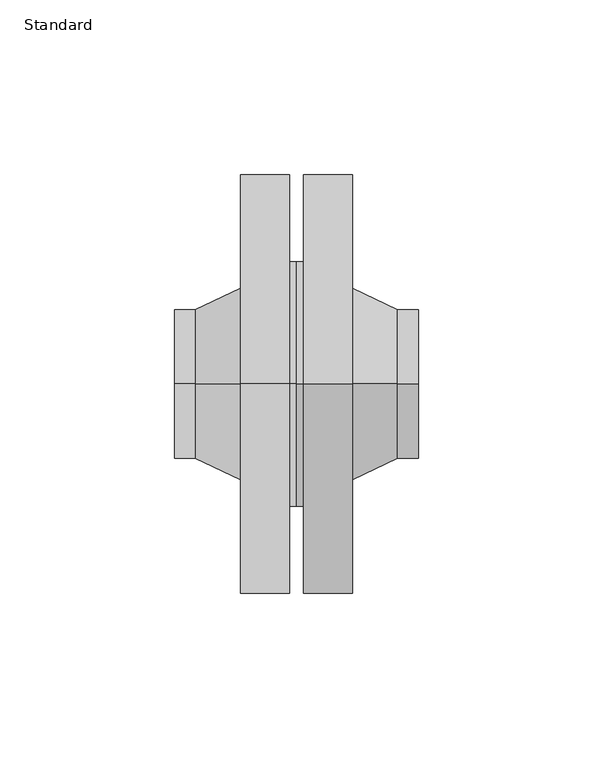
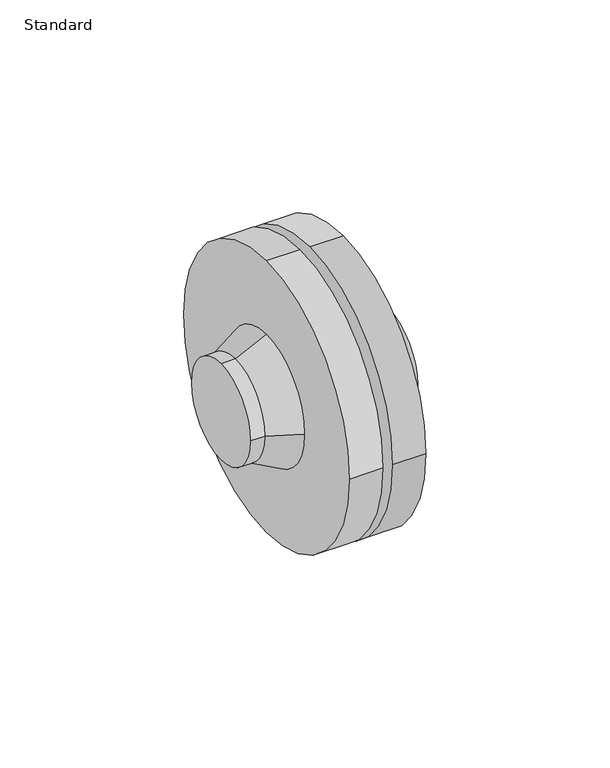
"""IFC4 building model written with IfcOpenShell, lengths in millimetres: pipe fitting geometry, Brides Double PN6 Collerette : Standard."""

import ifcopenshell
import ifcopenshell.guid

model = None  # the IFC model being written
_history = None  # IfcOwnerHistory: only IFC2X3 demands one
_inside = {}  # id of a spatial element -> (the spatial element, [elements in it])
_under = {}  # id of a project, library or spatial element -> (it, [spatial elements below it])
_declared = {}  # id of a project -> (the project, [libraries it declares])
_typed = {}  # id of a type object -> (the type object, [elements of that type])
_made_of = {}  # id of a material, layer set ... -> (it, [elements and type objects made of it])


def new_model(schema):
    """Start an empty IFC model of exactly this schema.

    Asked for "IFC4X3", IfcOpenShell would pick the latest addendum, in which some entities
    have other attributes; the version numbers below select the first issue.
    IFC2X3 requires an IfcOwnerHistory on every rooted entity: one is made here for all.
    """
    global model, _history
    if schema == "IFC4X3":
        model = ifcopenshell.file(schema_version=(4, 3, 0, 0))
    else:
        model = ifcopenshell.file(schema=schema)
    _inside.clear()
    _under.clear()
    _declared.clear()
    _typed.clear()
    _made_of.clear()
    _history = None
    if model.schema == "IFC2X3":
        org = make("IfcOrganization", Name="unknown")
        user = make(
            "IfcPersonAndOrganization",
            ThePerson=make("IfcPerson", FamilyName="unknown"),
            TheOrganization=org,
        )
        app = make(
            "IfcApplication",
            ApplicationDeveloper=org,
            Version="unknown",
            ApplicationFullName="unknown",
            ApplicationIdentifier="unknown",
        )
        _history = make(
            "IfcOwnerHistory",
            OwningUser=user,
            OwningApplication=app,
            ChangeAction="ADDED",
            CreationDate=0,
        )
    return model


def make(cls, **values):
    """One entity of the class cls with the attributes given. An attribute that is None is left unset."""
    return model.create_entity(
        cls, **{name: value for name, value in values.items() if value is not None}
    )


def rooted(cls, **values):
    """An entity with a GlobalId (a new one), such as an element, a storey or a relation."""
    return make(cls, GlobalId=ifcopenshell.guid.new(), OwnerHistory=_history, **values)


def si_unit(unit_type, name, prefix=None):
    """IfcSIUnit, for example si_unit("LENGTHUNIT", "METRE", prefix="MILLI")."""
    return make("IfcSIUnit", UnitType=unit_type, Prefix=prefix, Name=name)


def assignment(units):
    """IfcUnitAssignment: the units of a project."""
    return None if units is None else make("IfcUnitAssignment", Units=units)


def point(xyz):
    """IfcCartesianPoint."""
    return None if xyz is None else make("IfcCartesianPoint", Coordinates=xyz)


def direction(xyz):
    """IfcDirection."""
    return None if xyz is None else make("IfcDirection", DirectionRatios=xyz)


def frame(location, z_axis=None, x_axis=None):
    """IfcAxis2Placement3D, a coordinate frame: its origin and axes. An axis left out is left unset."""
    return make(
        "IfcAxis2Placement3D",
        Location=point(location),
        Axis=direction(z_axis),
        RefDirection=direction(x_axis),
    )


def frame_2d(location, x_axis=None):
    """IfcAxis2Placement2D, a coordinate frame in the plane: its origin and x axis."""
    return make(
        "IfcAxis2Placement2D", Location=point(location), RefDirection=direction(x_axis)
    )


def origin():
    """The frame at (0, 0, 0) with its axes left unset."""
    return frame((0.0, 0.0, 0.0))


def origin_2d():
    """The frame at (0, 0) in the plane with its x axis left unset."""
    return frame_2d((0.0, 0.0))


def place(relative_to, where):
    """IfcLocalPlacement: puts the frame where relative to a parent placement (None: the world)."""
    return make(
        "IfcLocalPlacement", PlacementRelTo=relative_to, RelativePlacement=where
    )


def context(
    kind, dimensions, precision=None, world=None, true_north=None, identifier=None
):
    """IfcGeometricRepresentationContext, for example the 3D "Model" context."""
    return make(
        "IfcGeometricRepresentationContext",
        ContextIdentifier=identifier,
        ContextType=kind,
        CoordinateSpaceDimension=dimensions,
        Precision=precision,
        WorldCoordinateSystem=world,
        TrueNorth=true_north,
    )


def project(units=None, contexts=None):
    """IfcProject with its units and contexts."""
    return rooted(
        "IfcProject",
        Name="project",
        RepresentationContexts=contexts,
        UnitsInContext=assignment(units),
    )


def spatial(cls, under=None, at=None, **own):
    """A site, building, storey or space (cls), placed at a placement, below another one or the project."""
    s = rooted(cls, ObjectPlacement=at, **own)
    if under is not None:
        _under.setdefault(under.id(), (under, []))[1].append(s)
    return s


def polyline(points):
    """IfcPolyline through the points."""
    return make("IfcPolyline", Points=[point(p) for p in points])


def circle_curve(where, radius):
    """IfcCircle in the frame where."""
    return make("IfcCircle", Position=where, Radius=radius)


def trimmed(basis, trim1, trim2, sense, master):
    """IfcTrimmedCurve: the piece of a basis curve between two trims."""
    return make(
        "IfcTrimmedCurve",
        BasisCurve=basis,
        Trim1=trim1,
        Trim2=trim2,
        SenseAgreement=sense,
        MasterRepresentation=master,
    )


def segment(curve, same_sense, transition):
    """IfcCompositeCurveSegment."""
    return make(
        "IfcCompositeCurveSegment",
        Transition=transition,
        SameSense=same_sense,
        ParentCurve=curve,
    )


def composite_curve(segments, self_intersect=None):
    """IfcCompositeCurve: segments joined end to end."""
    return make("IfcCompositeCurve", Segments=segments, SelfIntersect=self_intersect)


def outline(outer, holes=None, kind="AREA"):
    """IfcArbitraryClosedProfileDef: a profile drawn as a closed curve; with holes, ...WithVoids."""
    if holes is None:
        return make("IfcArbitraryClosedProfileDef", ProfileType=kind, OuterCurve=outer)
    return make(
        "IfcArbitraryProfileDefWithVoids",
        ProfileType=kind,
        OuterCurve=outer,
        InnerCurves=holes,
    )


def extrude(swept, where, along, depth):
    """IfcExtrudedAreaSolid: the profile swept, set in the frame where, extruded along a direction by depth."""
    return make(
        "IfcExtrudedAreaSolid",
        SweptArea=swept,
        Position=where,
        ExtrudedDirection=direction(along),
        Depth=depth,
    )


def shape(context_of_items, identifier, shape_type, items):
    """IfcShapeRepresentation: the items that make up one representation, for example the "Body"."""
    return make(
        "IfcShapeRepresentation",
        ContextOfItems=context_of_items,
        RepresentationIdentifier=identifier,
        RepresentationType=shape_type,
        Items=items,
    )


def source(mapping_origin, context_of_items, identifier, shape_type, items):
    """IfcRepresentationMap: a shape defined once, which mapped items show again and again."""
    return make(
        "IfcRepresentationMap",
        MappingOrigin=mapping_origin,
        MappedRepresentation=shape(context_of_items, identifier, shape_type, items),
    )


def transform(
    local_origin,
    x_axis=None,
    y_axis=None,
    z_axis=None,
    scale=None,
    scale2=None,
    scale3=None,
    uniform=True,
):
    """IfcCartesianTransformationOperator3D, or its non-uniform kind. x_axis, y_axis, z_axis: its Axis1, 2, 3."""
    if uniform:
        return make(
            "IfcCartesianTransformationOperator3D",
            Axis1=direction(x_axis),
            Axis2=direction(y_axis),
            LocalOrigin=point(local_origin),
            Scale=scale,
            Axis3=direction(z_axis),
        )
    return make(
        "IfcCartesianTransformationOperator3DnonUniform",
        Axis1=direction(x_axis),
        Axis2=direction(y_axis),
        LocalOrigin=point(local_origin),
        Scale=scale,
        Axis3=direction(z_axis),
        Scale2=scale2,
        Scale3=scale3,
    )


def mapped(mapping_source, mapping_target):
    """IfcMappedItem: shows the shape of a source again, moved by a transform."""
    return make(
        "IfcMappedItem", MappingSource=mapping_source, MappingTarget=mapping_target
    )


def made_of(thing, what):
    """Note that an element or type object is made of a material, layer set ...; save() writes the relation."""
    if what is not None:
        _made_of.setdefault(what.id(), (what, []))[1].append(thing)
    return thing


def element(
    cls,
    number,
    at=None,
    inside=None,
    cuts=None,
    type_object=None,
    material=None,
    context=None,
    identifier="Body",
    shape_type=None,
    held_by="IfcProductDefinitionShape",
    body=None,
    shapes=None,
    **own,
):
    """One element of the class cls, such as IfcWall. Its Tag is "e" and its number.

    at: its placement. inside: the storey or other place that contains it. cuts: it is an
    opening in that element (IfcRelVoidsElement). A single representation is given by context,
    identifier, shape_type and body (its items); several are given by shapes. held_by: the class
    of the entity that holds the representations. save() writes the other relations.
    """
    e = rooted(cls, Tag="e%d" % number, ObjectPlacement=at, **own)
    if body is not None:
        shapes = [shape(context, identifier, shape_type, body)]
    if shapes is not None:
        e.Representation = make(held_by, Representations=shapes)
    if inside is not None:
        _inside.setdefault(inside.id(), (inside, []))[1].append(e)
    if cuts is not None:
        rooted(
            "IfcRelVoidsElement", RelatingBuildingElement=cuts, RelatedOpeningElement=e
        )
    if type_object is not None:
        _typed.setdefault(type_object.id(), (type_object, []))[1].append(e)
    return made_of(e, material)


def aggregate(whole, parts):
    """IfcRelAggregates: a whole, such as a stair, and the parts it consists of."""
    return rooted("IfcRelAggregates", RelatingObject=whole, RelatedObjects=parts)


def save(model, path):
    """Write the relations noted so far, then the file.

    IfcRelAggregates (storeys below a building ...), IfcRelContainedInSpatialStructure (elements
    in a storey), IfcRelDefinesByType, IfcRelAssociatesMaterial and IfcRelDeclares: one each for
    every whole, place, type object, material and project.
    """
    for whole, parts in _under.values():
        aggregate(whole, parts)
    for where, things in _inside.values():
        rooted(
            "IfcRelContainedInSpatialStructure",
            RelatedElements=things,
            RelatingStructure=where,
        )
    for kind, things in _typed.values():
        rooted("IfcRelDefinesByType", RelatedObjects=things, RelatingType=kind)
    for what, things in _made_of.values():
        rooted("IfcRelAssociatesMaterial", RelatedObjects=things, RelatingMaterial=what)
    for by, libraries in _declared.values():
        rooted("IfcRelDeclares", RelatingContext=by, RelatedDefinitions=libraries)
    model.write(path)


def plane_surface(at):
    """IfcPlane: the flat surface through the origin of the frame at, square to its z axis."""
    return make("IfcPlane", Position=at)


def revolved_surface(curve, axis_point, axis_direction):
    """IfcSurfaceOfRevolution: the curve turned about the line through axis_point along axis_direction."""
    return make(
        "IfcSurfaceOfRevolution",
        SweptCurve=make("IfcArbitraryOpenProfileDef", ProfileType="CURVE", Curve=curve),
        AxisPosition=make("IfcAxis1Placement", Location=point(axis_point), Axis=direction(axis_direction)),
    )


def advanced_brep(points, edges, surfaces, faces):
    """IfcAdvancedBrep: a solid bounded by faces that lie on surfaces and meet in shared edges.

    An edge is (start, end): straight between two places in points (the first is 0);
    or (start, end, curve); or (start, end, curve, False) where it runs against its curve.
    A face is (place in surfaces, loops), or (place, loops, False) where it looks against
    its surface's normal. A loop lists edges by number (the first is 1), with a minus sign
    where the edge is run from its end to its start. The first loop is the outer one.
    """
    corners = [point(p) for p in points]
    vertices = [make("IfcVertexPoint", VertexGeometry=c) for c in corners]
    made = []
    for start, end, *more in edges:
        made.append(
            make(
                "IfcEdgeCurve",
                EdgeStart=vertices[start],
                EdgeEnd=vertices[end],
                EdgeGeometry=more[0] if more else make("IfcPolyline", Points=[corners[start], corners[end]]),
                SameSense=more[1] if len(more) > 1 else True,
            )
        )
    hull = []
    for where, loops, *sense in faces:
        bounds = []
        for j, loop in enumerate(loops):
            ring = [make("IfcOrientedEdge", EdgeElement=made[abs(k) - 1], Orientation=k > 0) for k in loop]
            bounds.append(
                make(
                    "IfcFaceOuterBound" if j == 0 else "IfcFaceBound",
                    Bound=make("IfcEdgeLoop", EdgeList=ring),
                    Orientation=True,
                )
            )
        hull.append(make("IfcAdvancedFace", Bounds=bounds, FaceSurface=surfaces[where], SameSense=sense[0] if sense else True))
    return make("IfcAdvancedBrep", Outer=make("IfcClosedShell", CfsFaces=hull))


def standard_daf404b1(model_context):
    return source(origin(), model_context, "Body", "SolidModel", [
        extrude(outline(composite_curve([segment(trimmed(circle_curve(origin_2d(), 21.2), [point((0.0, 21.2))], [point((21.2, 0.0))], False, "CARTESIAN"), True, "CONTINUOUS"), segment(trimmed(circle_curve(origin_2d(), 21.2), [point((21.2, 0.0))], [point((0.0, -21.2))], False, "CARTESIAN"), True, "CONTINUOUS"), segment(trimmed(circle_curve(origin_2d(), 21.2), [point((0.0, -21.2))], [point((-21.2, 0.0))], False, "CARTESIAN"), True, "CONTINUOUS"), segment(trimmed(circle_curve(origin_2d(), 21.2), [point((-21.2, 0.0))], [point((0.0, 21.2))], False, "CARTESIAN"), True, "CONTINUOUS")], self_intersect=False)), frame((64.0, 0.0, 0.0), z_axis=(1.0, 0.0, 0.0), x_axis=(0.0, 1.0, 0.0)), (0.0, 0.0, 1.0), 6.0),
        advanced_brep(
        [(64.0, 0.0, 21.2), (64.0, -21.2, 0.0), (64.0, 0.0, -21.2), (64.0, 21.2, 0.0), (51.0, 0.0, 27.5), (51.0, 27.5, 0.0), (51.0, 0.0, -27.5), (51.0, -27.5, 0.0)],
        [
            (0, 1, circle_curve(frame((64.0, 0.0, 0.0), z_axis=(1.0, 0.0, 0.0), x_axis=(0.0, 0.0, 1.0)), 21.2)),
            (1, 2, circle_curve(frame((64.0, 0.0, 0.0), z_axis=(1.0, 0.0, 0.0), x_axis=(0.0, -1.0, 0.0)), 21.2)),
            (2, 3, circle_curve(frame((64.0, 0.0, 0.0), z_axis=(1.0, 0.0, 0.0), x_axis=(0.0, 0.0, -1.0)), 21.2)),
            (3, 0, circle_curve(frame((64.0, 0.0, 0.0), z_axis=(1.0, 0.0, 0.0), x_axis=(0.0, 1.0, 0.0)), 21.2)),
            (4, 5, circle_curve(frame((51.0, 0.0, 0.0), z_axis=(-1.0, 0.0, 0.0), x_axis=(0.0, 1.0, 0.0)), 27.5)),
            (5, 6, circle_curve(frame((51.0, 0.0, 0.0), z_axis=(-1.0, 0.0, 0.0), x_axis=(0.0, 0.0, -1.0)), 27.5)),
            (6, 7, circle_curve(frame((51.0, 0.0, 0.0), z_axis=(-1.0, 0.0, 0.0), x_axis=(0.0, -1.0, 0.0)), 27.5)),
            (7, 4, circle_curve(frame((51.0, 0.0, 0.0), z_axis=(-1.0, 0.0, 0.0), x_axis=(0.0, 0.0, 1.0)), 27.5)),
            (7, 1),
            (0, 4),
            (6, 2),
            (5, 3),
        ],
        [
            plane_surface(frame((64.0, 0.0, 0.0), z_axis=(1.0, 0.0, 0.0), x_axis=(0.0, -1.0, 0.0))),
            plane_surface(frame((51.0, 0.0, 0.0), z_axis=(-1.0, 0.0, 0.0), x_axis=(0.0, -1.0, 0.0))),
            revolved_surface(polyline([(64.0, 0.0, 21.199999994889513), (51.0, 0.0, 27.5)]), (107.7460317, 0.0, 0.0), (-1.0, 0.0, 0.0)),
            revolved_surface(polyline([(64.0, -21.199999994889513, 0.0), (51.0, -27.5, 0.0)]), (107.7460317, 0.0, 0.0), (-1.0, 0.0, 0.0)),
            revolved_surface(polyline([(64.0, 0.0, -21.199999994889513), (51.0, 0.0, -27.5)]), (107.7460317, 0.0, 0.0), (-1.0, 0.0, 0.0)),
            revolved_surface(polyline([(64.0, 21.199999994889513, 0.0), (51.0, 27.5, 0.0)]), (107.7460317, 0.0, 0.0), (-1.0, 0.0, 0.0)),
        ],
        [
            (0, [[1, 2, 3, 4]]),
            (1, [[5, 6, 7, 8]]),
            (2, [[-8, 9, -1, 10]]),
            (3, [[-7, 11, -2, -9]]),
            (4, [[-6, 12, -3, -11]]),
            (5, [[-5, -10, -4, -12]]),
        ],
    ),
        extrude(outline(composite_curve([segment(trimmed(circle_curve(origin_2d(), 60.0), [point((0.0, 60.0))], [point((60.0, 0.0))], False, "CARTESIAN"), True, "CONTINUOUS"), segment(trimmed(circle_curve(origin_2d(), 60.0), [point((60.0, 0.0))], [point((0.0, -60.0))], False, "CARTESIAN"), True, "CONTINUOUS"), segment(trimmed(circle_curve(origin_2d(), 60.0), [point((0.0, -60.0))], [point((-60.0, 0.0))], False, "CARTESIAN"), True, "CONTINUOUS"), segment(trimmed(circle_curve(origin_2d(), 60.0), [point((-60.0, 0.0))], [point((0.0, 60.0))], False, "CARTESIAN"), True, "CONTINUOUS")], self_intersect=False)), frame((37.0, 0.0, 0.0), z_axis=(1.0, 0.0, 0.0), x_axis=(0.0, 1.0, 0.0)), (0.0, 0.0, 1.0), 14.0),
        extrude(outline(composite_curve([segment(trimmed(circle_curve(origin_2d(), 35.0), [point((0.0, 35.0))], [point((35.0, 0.0))], False, "CARTESIAN"), True, "CONTINUOUS"), segment(trimmed(circle_curve(origin_2d(), 35.0), [point((35.0, 0.0))], [point((0.0, -35.0))], False, "CARTESIAN"), True, "CONTINUOUS"), segment(trimmed(circle_curve(origin_2d(), 35.0), [point((0.0, -35.0))], [point((-35.0, 0.0))], False, "CARTESIAN"), True, "CONTINUOUS"), segment(trimmed(circle_curve(origin_2d(), 35.0), [point((-35.0, 0.0))], [point((0.0, 35.0))], False, "CARTESIAN"), True, "CONTINUOUS")], self_intersect=False)), frame((35.0, 0.0, 0.0), z_axis=(1.0, 0.0, 0.0), x_axis=(0.0, 1.0, 0.0)), (0.0, 0.0, 1.0), 2.0),
        extrude(outline(composite_curve([segment(trimmed(circle_curve(origin_2d(), 21.2), [point((0.0, 21.2))], [point((21.2, 0.0))], False, "CARTESIAN"), True, "CONTINUOUS"), segment(trimmed(circle_curve(origin_2d(), 21.2), [point((21.2, 0.0))], [point((0.0, -21.2))], False, "CARTESIAN"), True, "CONTINUOUS"), segment(trimmed(circle_curve(origin_2d(), 21.2), [point((0.0, -21.2))], [point((-21.2, 0.0))], False, "CARTESIAN"), True, "CONTINUOUS"), segment(trimmed(circle_curve(origin_2d(), 21.2), [point((-21.2, 0.0))], [point((0.0, 21.2))], False, "CARTESIAN"), True, "CONTINUOUS")], self_intersect=False)), frame((0.0, 0.0, 0.0), z_axis=(1.0, 0.0, 0.0), x_axis=(0.0, 1.0, 0.0)), (0.0, 0.0, 1.0), 6.0),
        advanced_brep(
        [(6.0, 0.0, 21.2), (6.0, 21.2, 0.0), (6.0, 0.0, -21.2), (6.0, -21.2, 0.0), (19.0, 0.0, 27.5), (19.0, -27.5, 0.0), (19.0, 0.0, -27.5), (19.0, 27.5, 0.0)],
        [
            (0, 1, circle_curve(frame((6.0, 0.0, 0.0), z_axis=(-1.0, 0.0, 0.0), x_axis=(0.0, 0.0, 1.0)), 21.2)),
            (1, 2, circle_curve(frame((6.0, 0.0, 0.0), z_axis=(-1.0, 0.0, 0.0), x_axis=(0.0, 1.0, 0.0)), 21.2)),
            (2, 3, circle_curve(frame((6.0, 0.0, 0.0), z_axis=(-1.0, 0.0, 0.0), x_axis=(0.0, 0.0, -1.0)), 21.2)),
            (3, 0, circle_curve(frame((6.0, 0.0, 0.0), z_axis=(-1.0, 0.0, 0.0), x_axis=(0.0, -1.0, 0.0)), 21.2)),
            (4, 5, circle_curve(frame((19.0, 0.0, 0.0), z_axis=(1.0, 0.0, 0.0), x_axis=(0.0, -1.0, 0.0)), 27.5)),
            (5, 6, circle_curve(frame((19.0, 0.0, 0.0), z_axis=(1.0, 0.0, 0.0), x_axis=(0.0, 0.0, -1.0)), 27.5)),
            (6, 7, circle_curve(frame((19.0, 0.0, 0.0), z_axis=(1.0, 0.0, 0.0), x_axis=(0.0, 1.0, 0.0)), 27.5)),
            (7, 4, circle_curve(frame((19.0, 0.0, 0.0), z_axis=(1.0, 0.0, 0.0), x_axis=(0.0, 0.0, 1.0)), 27.5)),
            (7, 1),
            (0, 4),
            (6, 2),
            (5, 3),
        ],
        [
            plane_surface(frame((6.0, 0.0, 0.0), z_axis=(-1.0, 0.0, 0.0), x_axis=(0.0, 1.0, 0.0))),
            plane_surface(frame((19.0, 0.0, 0.0), z_axis=(1.0, 0.0, 0.0), x_axis=(0.0, 1.0, 0.0))),
            revolved_surface(polyline([(6.0, 0.0, 21.199999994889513), (19.0, 0.0, 27.5)]), (-37.7460317, 0.0, 0.0), (1.0, 0.0, 0.0)),
            revolved_surface(polyline([(6.0, 21.199999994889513, 0.0), (19.0, 27.5, 0.0)]), (-37.7460317, 0.0, 0.0), (1.0, 0.0, 0.0)),
            revolved_surface(polyline([(6.0, 0.0, -21.199999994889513), (19.0, 0.0, -27.5)]), (-37.7460317, 0.0, 0.0), (1.0, 0.0, 0.0)),
            revolved_surface(polyline([(6.0, -21.199999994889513, 0.0), (19.0, -27.5, 0.0)]), (-37.7460317, 0.0, 0.0), (1.0, 0.0, 0.0)),
        ],
        [
            (0, [[1, 2, 3, 4]]),
            (1, [[5, 6, 7, 8]]),
            (2, [[-8, 9, -1, 10]]),
            (3, [[-7, 11, -2, -9]]),
            (4, [[-6, 12, -3, -11]]),
            (5, [[-5, -10, -4, -12]]),
        ],
    ),
        extrude(outline(composite_curve([segment(trimmed(circle_curve(origin_2d(), 60.0), [point((0.0, 60.0))], [point((60.0, 0.0))], False, "CARTESIAN"), True, "CONTINUOUS"), segment(trimmed(circle_curve(origin_2d(), 60.0), [point((60.0, 0.0))], [point((0.0, -60.0))], False, "CARTESIAN"), True, "CONTINUOUS"), segment(trimmed(circle_curve(origin_2d(), 60.0), [point((0.0, -60.0))], [point((-60.0, 0.0))], False, "CARTESIAN"), True, "CONTINUOUS"), segment(trimmed(circle_curve(origin_2d(), 60.0), [point((-60.0, 0.0))], [point((0.0, 60.0))], False, "CARTESIAN"), True, "CONTINUOUS")], self_intersect=False)), frame((19.0, 0.0, 0.0), z_axis=(1.0, 0.0, 0.0), x_axis=(0.0, 1.0, 0.0)), (0.0, 0.0, 1.0), 14.0),
        extrude(outline(composite_curve([segment(trimmed(circle_curve(origin_2d(), 35.0), [point((0.0, 35.0))], [point((35.0, 0.0))], False, "CARTESIAN"), True, "CONTINUOUS"), segment(trimmed(circle_curve(origin_2d(), 35.0), [point((35.0, 0.0))], [point((0.0, -35.0))], False, "CARTESIAN"), True, "CONTINUOUS"), segment(trimmed(circle_curve(origin_2d(), 35.0), [point((0.0, -35.0))], [point((-35.0, 0.0))], False, "CARTESIAN"), True, "CONTINUOUS"), segment(trimmed(circle_curve(origin_2d(), 35.0), [point((-35.0, 0.0))], [point((0.0, 35.0))], False, "CARTESIAN"), True, "CONTINUOUS")], self_intersect=False)), frame((33.0, 0.0, 0.0), z_axis=(1.0, 0.0, 0.0), x_axis=(0.0, 1.0, 0.0)), (0.0, 0.0, 1.0), 2.0),
    ])


if __name__ == "__main__":
    model = new_model("IFC4")
    model_context = context("Model", 3, world=origin())
    ifc_project = project(units=[si_unit("LENGTHUNIT", "METRE", prefix="MILLI")], contexts=[model_context])
    site = spatial("IfcSite", under=ifc_project)
    building = spatial("IfcBuilding", under=site)
    placement = place(None, origin())
    standard_shape = standard_daf404b1(model_context)
    element("IfcPipeFitting", 1, ObjectType="Brides Double PN6 Collerette : Standard", at=placement, inside=building, context=model_context, shape_type="MappedRepresentation", body=[
        mapped(standard_shape, transform((0.0, 0.0, 0.0), x_axis=(1.0, 0.0, 0.0), y_axis=(0.0, 1.0, 0.0), z_axis=(0.0, 0.0, 1.0))),
    ])
    save(model, "model.ifc")
